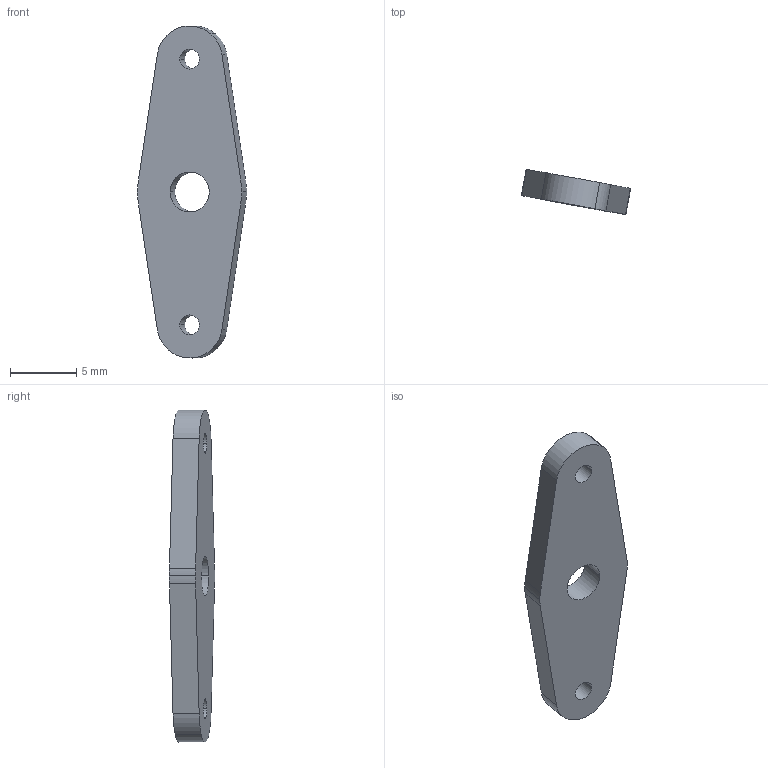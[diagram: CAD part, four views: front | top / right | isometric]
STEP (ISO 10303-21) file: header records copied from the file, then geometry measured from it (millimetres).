
FILE_DESCRIPTION(('STEP AP214'),'1');
FILE_NAME('tmp0.step','2025-04-19T14:24:11',(' '),(' '),'Spatial InterOp 3D',' ',' ');
FILE_SCHEMA(('AUTOMOTIVE_DESIGN { 1 0 10303 214 1 1 1 1 }'));
Length unit declared in the file: millimetre
Products named in the file (1): Thickness Data
Bounding box: 8.23 x 3.41 x 24.99 mm (x, y, z)
Volume: 281 mm3; surface area: 431 mm2
Topology: 1 solids, 1 shells, 20 faces, 54 edges, 36 vertices
Faces by surface type: cylinder 14, plane 6
Entity records: 683 total; most frequent: DIRECTION 124, CARTESIAN_POINT 111, ORIENTED_EDGE 108, EDGE_CURVE 54, AXIS2_PLACEMENT_3D 49, VERTEX_POINT 36, CIRCLE 28, EDGE_LOOP 26
